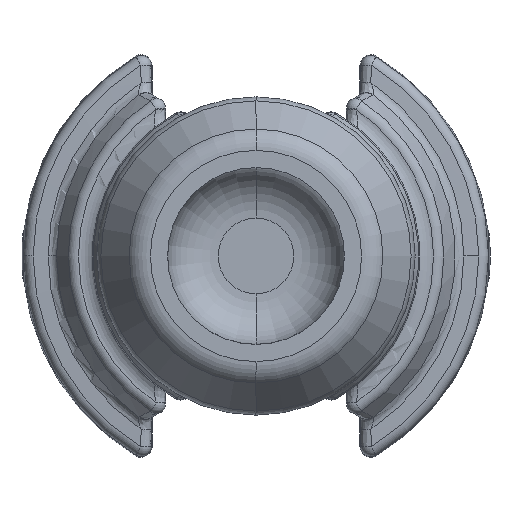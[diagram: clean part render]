
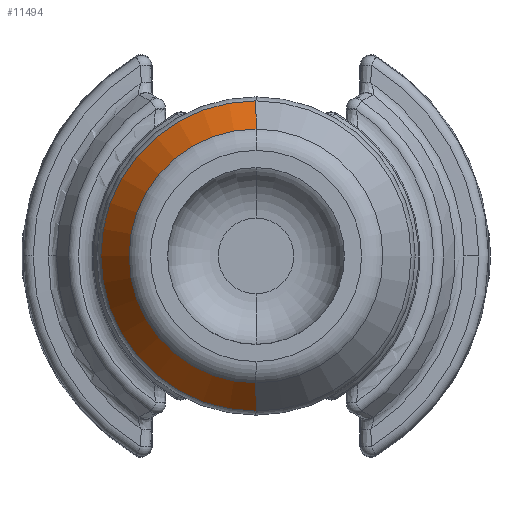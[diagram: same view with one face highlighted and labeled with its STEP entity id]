
A CAD part, front view. The second image highlights one B-rep face of the part: STEP entity #11494.
In plain terms, the highlighted conical face has half-angle 32.597 degrees and reference radius 3.665 mm.
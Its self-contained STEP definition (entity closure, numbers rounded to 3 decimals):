
#211 = CARTESIAN_POINT ( 'NONE',  ( 0., -4.519, 0. ) ) ;
#437 = ORIENTED_EDGE ( 'NONE', *, *, #8282, .F. ) ;
#602 = CONICAL_SURFACE ( 'NONE', #10216, 3.665, 0.569 ) ;
#626 = ORIENTED_EDGE ( 'NONE', *, *, #807, .T. ) ;
#807 = EDGE_CURVE ( 'NONE', #6034, #11023, #2078, .T. ) ;
#1121 = DIRECTION ( 'NONE',  ( 0., -1., 0. ) ) ;
#1222 = EDGE_CURVE ( 'NONE', #5850, #11023, #6698, .T. ) ;
#1978 = EDGE_CURVE ( 'NONE', #6034, #10793, #4836, .T. ) ;
#2078 = LINE ( 'NONE', #5820, #7862 ) ;
#2133 = DIRECTION ( 'NONE',  ( 0., 0., -1. ) ) ;
#2567 = DIRECTION ( 'NONE',  ( 0., 1., 0. ) ) ;
#2993 = CARTESIAN_POINT ( 'NONE',  ( 0., -2.716, -3.665 ) ) ;
#3239 = FACE_OUTER_BOUND ( 'NONE', #7738, .T. ) ;
#4059 = AXIS2_PLACEMENT_3D ( 'NONE', #211, #1121, #2133 ) ;
#4372 = CARTESIAN_POINT ( 'NONE',  ( 0., -4.519, 2.511 ) ) ;
#4398 = AXIS2_PLACEMENT_3D ( 'NONE', #10812, #2567, #9861 ) ;
#4480 = CARTESIAN_POINT ( 'NONE',  ( 0., -4.519, -2.511 ) ) ;
#4836 = CIRCLE ( 'NONE', #4059, 2.511 ) ;
#4986 = VECTOR ( 'NONE', #9319, 1000. ) ;
#5820 = CARTESIAN_POINT ( 'NONE',  ( 0., -2.716, 3.665 ) ) ;
#5850 = VERTEX_POINT ( 'NONE', #6132 ) ;
#6006 = DIRECTION ( 'NONE',  ( 0., 1., 0. ) ) ;
#6034 = VERTEX_POINT ( 'NONE', #4372 ) ;
#6132 = CARTESIAN_POINT ( 'NONE',  ( 0., -3.644, -3.071 ) ) ;
#6635 = ORIENTED_EDGE ( 'NONE', *, *, #1978, .F. ) ;
#6698 = CIRCLE ( 'NONE', #4398, 3.071 ) ;
#6907 = CARTESIAN_POINT ( 'NONE',  ( 0., -2.716, 0. ) ) ;
#7738 = EDGE_LOOP ( 'NONE', ( #6635, #626, #9004, #437 ) ) ;
#7862 = VECTOR ( 'NONE', #10594, 1000. ) ;
#8282 = EDGE_CURVE ( 'NONE', #10793, #5850, #9438, .T. ) ;
#9004 = ORIENTED_EDGE ( 'NONE', *, *, #1222, .F. ) ;
#9319 = DIRECTION ( 'NONE',  ( 0., 0.842, -0.539 ) ) ;
#9438 = LINE ( 'NONE', #2993, #4986 ) ;
#9671 = DIRECTION ( 'NONE',  ( 0., 0., -1. ) ) ;
#9861 = DIRECTION ( 'NONE',  ( 0., 0., 1. ) ) ;
#10216 = AXIS2_PLACEMENT_3D ( 'NONE', #6907, #6006, #9671 ) ;
#10515 = CARTESIAN_POINT ( 'NONE',  ( 0., -3.644, 3.071 ) ) ;
#10594 = DIRECTION ( 'NONE',  ( 0., 0.842, 0.539 ) ) ;
#10793 = VERTEX_POINT ( 'NONE', #4480 ) ;
#10812 = CARTESIAN_POINT ( 'NONE',  ( 0., -3.644, 0. ) ) ;
#11023 = VERTEX_POINT ( 'NONE', #10515 ) ;
#11494 = ADVANCED_FACE ( 'NONE', ( #3239 ), #602, .T. ) ;
